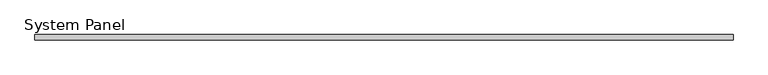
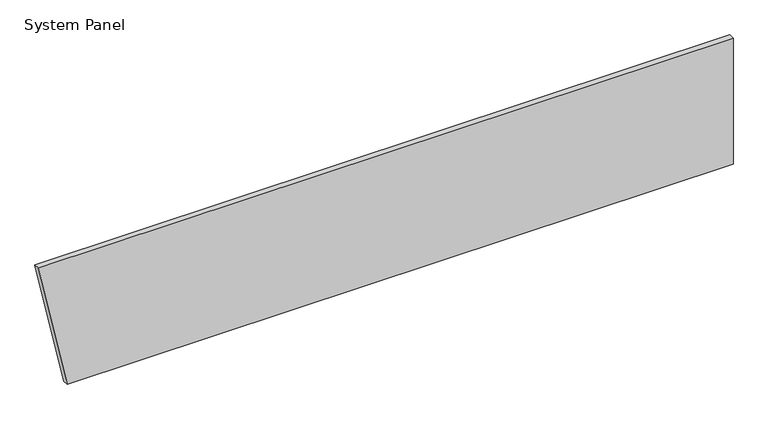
"""IFC4 building model written with IfcOpenShell, lengths in millimetres: plate geometry, System Panel : Equitilt_FlameGuard_50mm_Plain_Surfmist."""

from ifc_helpers import new_model, si_unit, frame, origin, place, context, project, spatial, polyline, outline, extrude, source, transform, mapped, element, save


def system_panel_3fc49958(model_context):
    return source(origin(), model_context, "Body", "SweptSolid", [
        extrude(outline(polyline([(0.0, -2864.5641691), (0.0, 3125.4358309), (1200.0, 3125.4358309), (1200.0, -3125.4358309), (0.0, -2864.5641691)])), frame((0.0, -50.0, 0.0), z_axis=(0.0, 1.0, 0.0), x_axis=(0.0, 0.0, 1.0)), (0.0, 0.0, 1.0), 50.0),
    ])


if __name__ == "__main__":
    model = new_model("IFC4")
    model_context = context("Model", 3, world=origin())
    ifc_project = project(units=[si_unit("LENGTHUNIT", "METRE", prefix="MILLI")], contexts=[model_context])
    site = spatial("IfcSite", under=ifc_project)
    building = spatial("IfcBuilding", under=site)
    placement = place(None, origin())
    system_panel_shape = system_panel_3fc49958(model_context)
    element("IfcPlate", 1, ObjectType="System Panel : Equitilt_FlameGuard_50mm_Plain_Surfmist", at=placement, inside=building, context=model_context, shape_type="MappedRepresentation", body=[
        mapped(system_panel_shape, transform((0.0, 0.0, 0.0), x_axis=(1.0, 0.0, 0.0), y_axis=(0.0, 1.0, 0.0), z_axis=(0.0, 0.0, 1.0))),
    ])
    save(model, "model.ifc")
